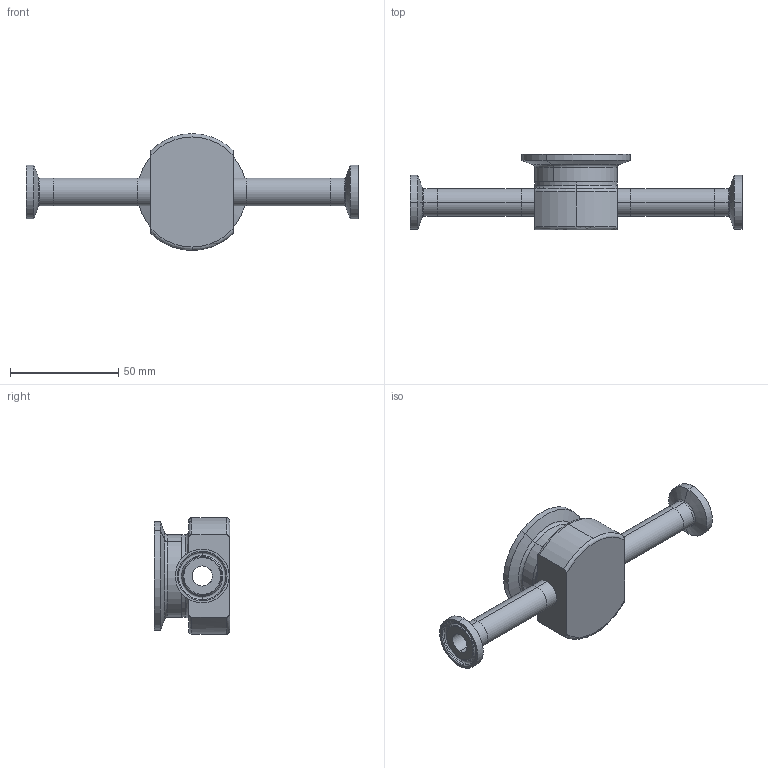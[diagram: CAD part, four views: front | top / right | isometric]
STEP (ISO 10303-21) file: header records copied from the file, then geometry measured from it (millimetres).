
FILE_DESCRIPTION (( 'STEP AP214' ), '1' );
FILE_NAME ('TEG7IS .5X1.5.STEP', '2025-09-26T13:07:46', ( '' ), ( '' ), 'SwSTEP 2.0', 'SolidWorks 2023', '' );
FILE_SCHEMA (( 'AUTOMOTIVE_DESIGN' ));
Length unit declared in the file: inch
Products named in the file (5): PRE-CUT .5; TEG7IS .5X1.5; EG2CS1.5 REV1; EG2CS 0.50 REV2; V7IB .5X1.5 ASSY
Assembly tree (6 placements, depth 2):
  TEG7IS .5X1.5
    V7IB .5X1.5 ASSY
    EG2CS1.5 REV1
    PRE-CUT .5  x2
    EG2CS 0.50 REV2  x2
Bounding box: 153.67 x 34.92 x 53.98 mm (x, y, z)
Volume: 43256.7 mm3; surface area: 23240.3 mm2
Topology: 6 solids, 6 shells, 127 faces, 277 edges, 166 vertices
Faces by surface type: cylinder 44, torus 40, plane 21, cone 14, bspline 8
Entity records: 3819 total; most frequent: CARTESIAN_POINT 1428, DIRECTION 517, ORIENTED_EDGE 438, AXIS2_PLACEMENT_3D 233, EDGE_CURVE 219, CIRCLE 134, VERTEX_POINT 132, EDGE_LOOP 111
